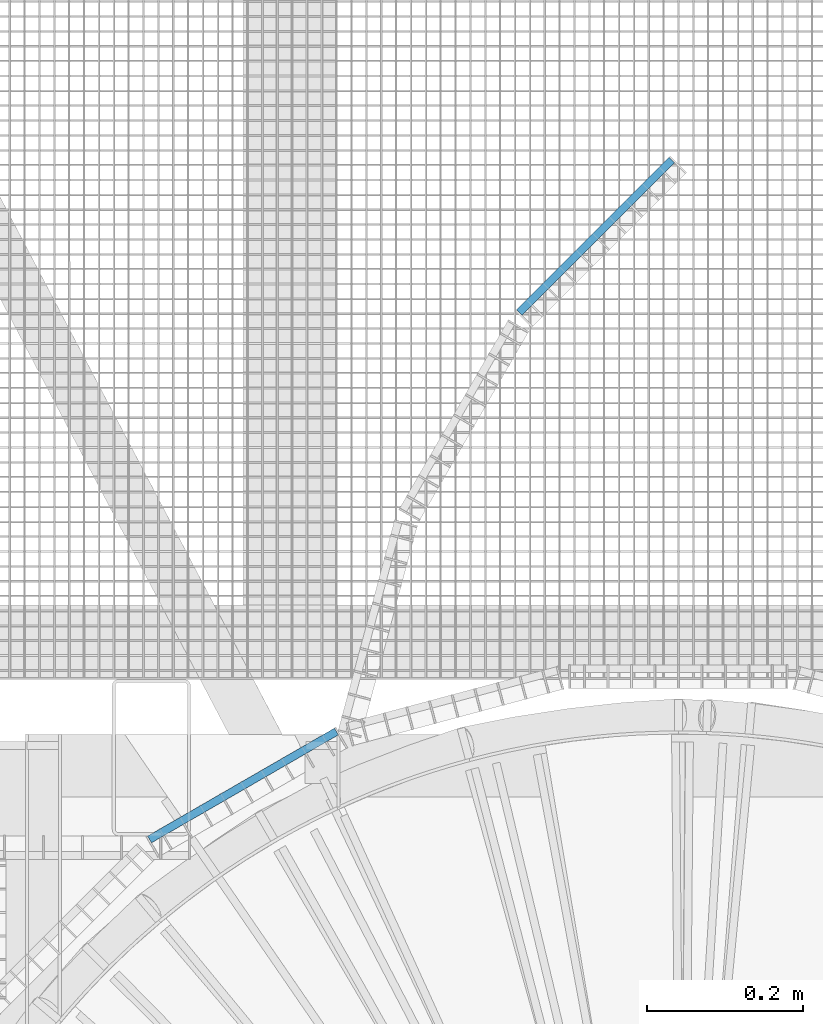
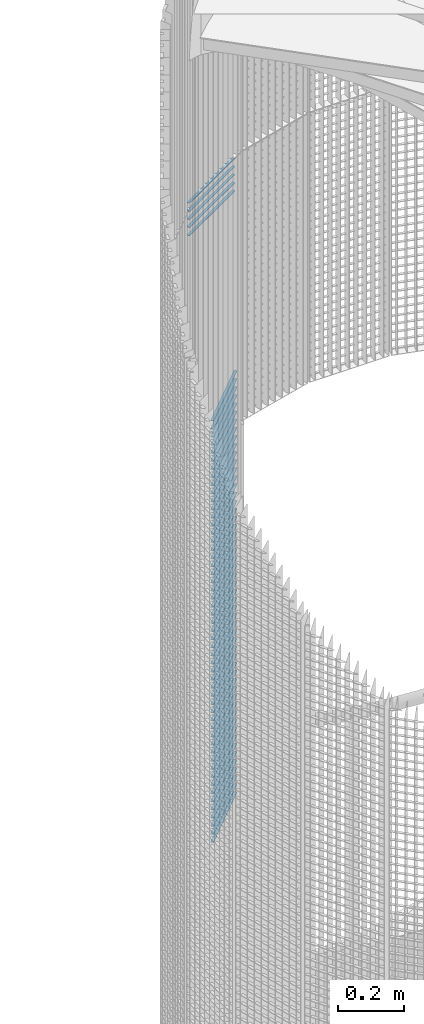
# One storey, part 324 of 1183: 58 beams, 2 elements without a shape of their own.
"""IFC2X3 building model written with IfcOpenShell, lengths in millimetres."""

from ifc_helpers import new_model, si_unit, frame, origin_with_axes, origin_2d_with_axis, place, context, subcontext, project, spatial, rectangle, extrude, material, type_object, element, aggregate, save


model = new_model("IFC2X3")

# Units and contexts
model_context = context("Model", 3, precision=1e-05, world=origin_with_axes())
body_context = subcontext(model_context, "Body", "Model", "MODEL_VIEW")
ifc_project = project(units=[si_unit("LENGTHUNIT", "METRE", prefix="MILLI"), si_unit("AREAUNIT", "SQUARE_METRE"), si_unit("VOLUMEUNIT", "CUBIC_METRE"), si_unit("MASSUNIT", "GRAM", prefix="KILO"), si_unit("TIMEUNIT", "SECOND"), si_unit("PLANEANGLEUNIT", "RADIAN"), si_unit("SOLIDANGLEUNIT", "STERADIAN"), si_unit("THERMODYNAMICTEMPERATUREUNIT", "DEGREE_CELSIUS"), si_unit("LUMINOUSINTENSITYUNIT", "LUMEN")], contexts=[model_context])

# Site, building, storey
site_placement = place(None, origin_with_axes())
site = spatial("IfcSite", under=ifc_project, at=site_placement, Name="Undefined", CompositionType="ELEMENT")
building_placement = place(site_placement, origin_with_axes())
building = spatial("IfcBuilding", under=site, at=building_placement, Name="Undefined", CompositionType="ELEMENT")
storey_placement = place(building_placement, origin_with_axes())
storey = spatial("IfcBuildingStorey", under=building, at=storey_placement, Name="Undefined", CompositionType="ELEMENT", Elevation=0.0)

# Assembly, beams
assembly_1_placement = place(storey_placement, origin_with_axes())
assembly_1 = element("IfcElementAssembly", 1, at=assembly_1_placement, inside=storey, Name="BORDURE", AssemblyPlace="NOTDEFINED", PredefinedType="NOTDEFINED")
ifc_material = material(Name="STEEL/S235JR")
beam_type = type_object("IfcBeamType", Name="PL2*10", PredefinedType="NOTDEFINED")
beam_1_placement = place(assembly_1_placement, frame((-8.49695219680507, 1764.20529939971, 1590.0), z_axis=(-0.707106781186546, 0.707106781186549, 0.0), x_axis=(-0.70710678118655, -0.707106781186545, 0.0)))
beam_1 = element("IfcBeam", 2, at=beam_1_placement, type_object=beam_type, material=ifc_material, Name="ENTRETOISE", context=body_context, shape_type="SweptSolid", body=[
    extrude(rectangle(XDim=2.0, YDim=10.0, at=origin_2d_with_axis()), frame((275.999999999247, 9.09494701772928e-13, 1.53210777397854e-14), z_axis=(-1.0, 0.0, 0.0), x_axis=(0.0, -1.0, 0.0)), (0.0, 0.0, 1.0), 276.0),
])
beam_2_placement = place(assembly_1_placement, frame((-8.49695219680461, 1764.20529939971, 1560.0), z_axis=(-0.707106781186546, 0.707106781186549, 0.0), x_axis=(-0.70710678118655, -0.707106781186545, 0.0)))
beam_2 = element("IfcBeam", 3, at=beam_2_placement, type_object=beam_type, material=ifc_material, Name="ENTRETOISE", context=body_context, shape_type="SweptSolid", body=[
    extrude(rectangle(XDim=2.0, YDim=10.0, at=origin_2d_with_axis()), frame((275.999999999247, 9.09494701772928e-13, 1.53210777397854e-14), z_axis=(-1.0, 0.0, 0.0), x_axis=(0.0, -1.0, 0.0)), (0.0, 0.0, 1.0), 276.0),
])
beam_3_placement = place(assembly_1_placement, frame((-8.49695219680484, 1764.20529939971, 1530.0), z_axis=(-0.707106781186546, 0.707106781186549, 0.0), x_axis=(-0.70710678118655, -0.707106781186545, 0.0)))
beam_3 = element("IfcBeam", 4, at=beam_3_placement, type_object=beam_type, material=ifc_material, Name="ENTRETOISE", context=body_context, shape_type="SweptSolid", body=[
    extrude(rectangle(XDim=2.0, YDim=10.0, at=origin_2d_with_axis()), frame((275.999999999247, 9.09494701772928e-13, 1.53210777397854e-14), z_axis=(-1.0, 0.0, 0.0), x_axis=(0.0, -1.0, 0.0)), (0.0, 0.0, 1.0), 276.0),
])
beam_4_placement = place(assembly_1_placement, frame((-8.49695219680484, 1764.20529939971, 1500.0), z_axis=(-0.707106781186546, 0.707106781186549, 0.0), x_axis=(-0.70710678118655, -0.707106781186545, 0.0)))
beam_4 = element("IfcBeam", 5, at=beam_4_placement, type_object=beam_type, material=ifc_material, Name="ENTRETOISE", context=body_context, shape_type="SweptSolid", body=[
    extrude(rectangle(XDim=2.0, YDim=10.0, at=origin_2d_with_axis()), frame((275.999999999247, 9.09494701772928e-13, 1.53210777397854e-14), z_axis=(-1.0, 0.0, 0.0), x_axis=(0.0, -1.0, 0.0)), (0.0, 0.0, 1.0), 276.0),
])
beam_5_placement = place(assembly_1_placement, frame((-8.49695219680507, 1764.20529939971, 1470.0), z_axis=(-0.707106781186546, 0.707106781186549, 0.0), x_axis=(-0.70710678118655, -0.707106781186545, 0.0)))
beam_5 = element("IfcBeam", 6, at=beam_5_placement, type_object=beam_type, material=ifc_material, Name="ENTRETOISE", context=body_context, shape_type="SweptSolid", body=[
    extrude(rectangle(XDim=2.0, YDim=10.0, at=origin_2d_with_axis()), frame((275.999999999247, 9.09494701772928e-13, 1.53210777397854e-14), z_axis=(-1.0, 0.0, 0.0), x_axis=(0.0, -1.0, 0.0)), (0.0, 0.0, 1.0), 276.0),
])
beam_6_placement = place(assembly_1_placement, frame((-8.49695219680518, 1764.20529939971, 1440.0), z_axis=(-0.707106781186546, 0.707106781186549, 0.0), x_axis=(-0.70710678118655, -0.707106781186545, 0.0)))
beam_6 = element("IfcBeam", 7, at=beam_6_placement, type_object=beam_type, material=ifc_material, Name="ENTRETOISE", context=body_context, shape_type="SweptSolid", body=[
    extrude(rectangle(XDim=2.0, YDim=10.0, at=origin_2d_with_axis()), frame((275.999999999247, 9.09494701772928e-13, 1.53210777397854e-14), z_axis=(-1.0, 0.0, 0.0), x_axis=(0.0, -1.0, 0.0)), (0.0, 0.0, 1.0), 276.0),
])
beam_7_placement = place(assembly_1_placement, frame((-8.4969521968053, 1764.20529939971, 1410.0), z_axis=(-0.707106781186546, 0.707106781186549, 0.0), x_axis=(-0.70710678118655, -0.707106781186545, 0.0)))
beam_7 = element("IfcBeam", 8, at=beam_7_placement, type_object=beam_type, material=ifc_material, Name="ENTRETOISE", context=body_context, shape_type="SweptSolid", body=[
    extrude(rectangle(XDim=2.0, YDim=10.0, at=origin_2d_with_axis()), frame((275.999999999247, 9.09494701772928e-13, 1.53210777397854e-14), z_axis=(-1.0, 0.0, 0.0), x_axis=(0.0, -1.0, 0.0)), (0.0, 0.0, 1.0), 276.0),
])
beam_8_placement = place(assembly_1_placement, frame((-8.49695219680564, 1764.20529939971, 1380.0), z_axis=(-0.707106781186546, 0.707106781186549, 0.0), x_axis=(-0.70710678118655, -0.707106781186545, 0.0)))
beam_8 = element("IfcBeam", 9, at=beam_8_placement, type_object=beam_type, material=ifc_material, Name="ENTRETOISE", context=body_context, shape_type="SweptSolid", body=[
    extrude(rectangle(XDim=2.0, YDim=10.0, at=origin_2d_with_axis()), frame((275.999999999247, 9.09494701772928e-13, 1.53210777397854e-14), z_axis=(-1.0, 0.0, 0.0), x_axis=(0.0, -1.0, 0.0)), (0.0, 0.0, 1.0), 276.0),
])
beam_9_placement = place(assembly_1_placement, frame((-8.49695219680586, 1764.20529939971, 1350.0), z_axis=(-0.707106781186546, 0.707106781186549, 0.0), x_axis=(-0.70710678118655, -0.707106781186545, 0.0)))
beam_9 = element("IfcBeam", 10, at=beam_9_placement, type_object=beam_type, material=ifc_material, Name="ENTRETOISE", context=body_context, shape_type="SweptSolid", body=[
    extrude(rectangle(XDim=2.0, YDim=10.0, at=origin_2d_with_axis()), frame((275.999999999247, 9.09494701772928e-13, 1.53210777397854e-14), z_axis=(-1.0, 0.0, 0.0), x_axis=(0.0, -1.0, 0.0)), (0.0, 0.0, 1.0), 276.0),
])
beam_10_placement = place(assembly_1_placement, frame((-8.49695219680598, 1764.20529939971, 1320.0), z_axis=(-0.707106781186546, 0.707106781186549, 0.0), x_axis=(-0.70710678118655, -0.707106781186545, 0.0)))
beam_10 = element("IfcBeam", 11, at=beam_10_placement, type_object=beam_type, material=ifc_material, Name="ENTRETOISE", context=body_context, shape_type="SweptSolid", body=[
    extrude(rectangle(XDim=2.0, YDim=10.0, at=origin_2d_with_axis()), frame((275.999999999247, 9.09494701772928e-13, 1.53210777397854e-14), z_axis=(-1.0, 0.0, 0.0), x_axis=(0.0, -1.0, 0.0)), (0.0, 0.0, 1.0), 276.0),
])
beam_11_placement = place(assembly_1_placement, frame((-8.49695219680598, 1764.20529939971, 1290.0), z_axis=(-0.707106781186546, 0.707106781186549, 0.0), x_axis=(-0.70710678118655, -0.707106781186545, 0.0)))
beam_11 = element("IfcBeam", 12, at=beam_11_placement, type_object=beam_type, material=ifc_material, Name="ENTRETOISE", context=body_context, shape_type="SweptSolid", body=[
    extrude(rectangle(XDim=2.0, YDim=10.0, at=origin_2d_with_axis()), frame((275.999999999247, 9.09494701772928e-13, 1.53210777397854e-14), z_axis=(-1.0, 0.0, 0.0), x_axis=(0.0, -1.0, 0.0)), (0.0, 0.0, 1.0), 276.0),
])
beam_12_placement = place(assembly_1_placement, frame((-8.49695219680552, 1764.20529939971, 1260.0), z_axis=(-0.707106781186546, 0.707106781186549, 0.0), x_axis=(-0.70710678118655, -0.707106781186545, 0.0)))
beam_12 = element("IfcBeam", 13, at=beam_12_placement, type_object=beam_type, material=ifc_material, Name="ENTRETOISE", context=body_context, shape_type="SweptSolid", body=[
    extrude(rectangle(XDim=2.0, YDim=10.0, at=origin_2d_with_axis()), frame((275.999999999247, 9.09494701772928e-13, 1.53210777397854e-14), z_axis=(-1.0, 0.0, 0.0), x_axis=(0.0, -1.0, 0.0)), (0.0, 0.0, 1.0), 276.0),
])
beam_13_placement = place(assembly_1_placement, frame((-8.49695219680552, 1764.20529939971, 1230.0), z_axis=(-0.707106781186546, 0.707106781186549, 0.0), x_axis=(-0.70710678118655, -0.707106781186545, 0.0)))
beam_13 = element("IfcBeam", 14, at=beam_13_placement, type_object=beam_type, material=ifc_material, Name="ENTRETOISE", context=body_context, shape_type="SweptSolid", body=[
    extrude(rectangle(XDim=2.0, YDim=10.0, at=origin_2d_with_axis()), frame((275.999999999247, 9.09494701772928e-13, 1.53210777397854e-14), z_axis=(-1.0, 0.0, 0.0), x_axis=(0.0, -1.0, 0.0)), (0.0, 0.0, 1.0), 276.0),
])
beam_14_placement = place(assembly_1_placement, frame((-8.49695219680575, 1764.20529939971, 1200.0), z_axis=(-0.707106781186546, 0.707106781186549, 0.0), x_axis=(-0.70710678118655, -0.707106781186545, 0.0)))
beam_14 = element("IfcBeam", 15, at=beam_14_placement, type_object=beam_type, material=ifc_material, Name="ENTRETOISE", context=body_context, shape_type="SweptSolid", body=[
    extrude(rectangle(XDim=2.0, YDim=10.0, at=origin_2d_with_axis()), frame((275.999999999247, 9.09494701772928e-13, 1.53210777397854e-14), z_axis=(-1.0, 0.0, 0.0), x_axis=(0.0, -1.0, 0.0)), (0.0, 0.0, 1.0), 276.0),
])
beam_15_placement = place(assembly_1_placement, frame((-8.49695219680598, 1764.20529939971, 1170.0), z_axis=(-0.707106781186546, 0.707106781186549, 0.0), x_axis=(-0.70710678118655, -0.707106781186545, 0.0)))
beam_15 = element("IfcBeam", 16, at=beam_15_placement, type_object=beam_type, material=ifc_material, Name="ENTRETOISE", context=body_context, shape_type="SweptSolid", body=[
    extrude(rectangle(XDim=2.0, YDim=10.0, at=origin_2d_with_axis()), frame((275.999999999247, 9.09494701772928e-13, 1.53210777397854e-14), z_axis=(-1.0, 0.0, 0.0), x_axis=(0.0, -1.0, 0.0)), (0.0, 0.0, 1.0), 276.0),
])
beam_16_placement = place(assembly_1_placement, frame((-8.49695219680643, 1764.20529939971, 1140.0), z_axis=(-0.707106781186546, 0.707106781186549, 0.0), x_axis=(-0.70710678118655, -0.707106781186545, 0.0)))
beam_16 = element("IfcBeam", 17, at=beam_16_placement, type_object=beam_type, material=ifc_material, Name="ENTRETOISE", context=body_context, shape_type="SweptSolid", body=[
    extrude(rectangle(XDim=2.0, YDim=10.0, at=origin_2d_with_axis()), frame((275.999999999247, 9.09494701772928e-13, 1.53210777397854e-14), z_axis=(-1.0, 0.0, 0.0), x_axis=(0.0, -1.0, 0.0)), (0.0, 0.0, 1.0), 276.0),
])
beam_17_placement = place(assembly_1_placement, frame((-8.49695219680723, 1764.20529939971, 719.999999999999), z_axis=(-0.707106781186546, 0.707106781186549, 0.0), x_axis=(-0.70710678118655, -0.707106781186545, 0.0)))
beam_17 = element("IfcBeam", 18, at=beam_17_placement, type_object=beam_type, material=ifc_material, Name="ENTRETOISE", context=body_context, shape_type="SweptSolid", body=[
    extrude(rectangle(XDim=2.0, YDim=10.0, at=origin_2d_with_axis()), frame((275.999999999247, 9.09494701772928e-13, 1.53210777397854e-14), z_axis=(-1.0, 0.0, 0.0), x_axis=(0.0, -1.0, 0.0)), (0.0, 0.0, 1.0), 276.0),
])
beam_18_placement = place(assembly_1_placement, frame((-8.49695219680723, 1764.20529939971, 689.999999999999), z_axis=(-0.707106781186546, 0.707106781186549, 0.0), x_axis=(-0.70710678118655, -0.707106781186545, 0.0)))
beam_18 = element("IfcBeam", 19, at=beam_18_placement, type_object=beam_type, material=ifc_material, Name="ENTRETOISE", context=body_context, shape_type="SweptSolid", body=[
    extrude(rectangle(XDim=2.0, YDim=10.0, at=origin_2d_with_axis()), frame((275.999999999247, 9.09494701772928e-13, 1.53210777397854e-14), z_axis=(-1.0, 0.0, 0.0), x_axis=(0.0, -1.0, 0.0)), (0.0, 0.0, 1.0), 276.0),
])
beam_19_placement = place(assembly_1_placement, frame((-8.49695219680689, 1764.20529939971, 749.999999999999), z_axis=(-0.707106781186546, 0.707106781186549, 0.0), x_axis=(-0.70710678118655, -0.707106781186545, 0.0)))
beam_19 = element("IfcBeam", 20, at=beam_19_placement, type_object=beam_type, material=ifc_material, Name="ENTRETOISE", context=body_context, shape_type="SweptSolid", body=[
    extrude(rectangle(XDim=2.0, YDim=10.0, at=origin_2d_with_axis()), frame((275.999999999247, 9.09494701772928e-13, 1.53210777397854e-14), z_axis=(-1.0, 0.0, 0.0), x_axis=(0.0, -1.0, 0.0)), (0.0, 0.0, 1.0), 276.0),
])
beam_20_placement = place(assembly_1_placement, frame((-8.49695219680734, 1764.20529939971, 659.999999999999), z_axis=(-0.707106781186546, 0.707106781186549, 0.0), x_axis=(-0.70710678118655, -0.707106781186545, 0.0)))
beam_20 = element("IfcBeam", 21, at=beam_20_placement, type_object=beam_type, material=ifc_material, Name="ENTRETOISE", context=body_context, shape_type="SweptSolid", body=[
    extrude(rectangle(XDim=2.0, YDim=10.0, at=origin_2d_with_axis()), frame((275.999999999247, 9.09494701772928e-13, 1.53210777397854e-14), z_axis=(-1.0, 0.0, 0.0), x_axis=(0.0, -1.0, 0.0)), (0.0, 0.0, 1.0), 276.0),
])
beam_21_placement = place(assembly_1_placement, frame((-8.49695219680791, 1764.20529939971, 629.999999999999), z_axis=(-0.707106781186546, 0.707106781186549, 0.0), x_axis=(-0.70710678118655, -0.707106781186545, 0.0)))
beam_21 = element("IfcBeam", 22, at=beam_21_placement, type_object=beam_type, material=ifc_material, Name="ENTRETOISE", context=body_context, shape_type="SweptSolid", body=[
    extrude(rectangle(XDim=2.0, YDim=10.0, at=origin_2d_with_axis()), frame((275.999999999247, 9.09494701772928e-13, 1.53210777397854e-14), z_axis=(-1.0, 0.0, 0.0), x_axis=(0.0, -1.0, 0.0)), (0.0, 0.0, 1.0), 276.0),
])
beam_22_placement = place(assembly_1_placement, frame((-8.49695219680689, 1764.20529939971, 779.999999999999), z_axis=(-0.707106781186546, 0.707106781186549, 0.0), x_axis=(-0.70710678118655, -0.707106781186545, 0.0)))
beam_22 = element("IfcBeam", 23, at=beam_22_placement, type_object=beam_type, material=ifc_material, Name="ENTRETOISE", context=body_context, shape_type="SweptSolid", body=[
    extrude(rectangle(XDim=2.0, YDim=10.0, at=origin_2d_with_axis()), frame((275.999999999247, 9.09494701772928e-13, 1.53210777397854e-14), z_axis=(-1.0, 0.0, 0.0), x_axis=(0.0, -1.0, 0.0)), (0.0, 0.0, 1.0), 276.0),
])
beam_23_placement = place(assembly_1_placement, frame((-8.49695219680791, 1764.20529939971, 599.999999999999), z_axis=(-0.707106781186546, 0.707106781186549, 0.0), x_axis=(-0.70710678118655, -0.707106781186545, 0.0)))
beam_23 = element("IfcBeam", 24, at=beam_23_placement, type_object=beam_type, material=ifc_material, Name="ENTRETOISE", context=body_context, shape_type="SweptSolid", body=[
    extrude(rectangle(XDim=2.0, YDim=10.0, at=origin_2d_with_axis()), frame((275.999999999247, 9.09494701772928e-13, 1.53210777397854e-14), z_axis=(-1.0, 0.0, 0.0), x_axis=(0.0, -1.0, 0.0)), (0.0, 0.0, 1.0), 276.0),
])
beam_24_placement = place(assembly_1_placement, frame((-8.49695219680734, 1764.20529939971, 809.999999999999), z_axis=(-0.707106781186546, 0.707106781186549, 0.0), x_axis=(-0.70710678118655, -0.707106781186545, 0.0)))
beam_24 = element("IfcBeam", 25, at=beam_24_placement, type_object=beam_type, material=ifc_material, Name="ENTRETOISE", context=body_context, shape_type="SweptSolid", body=[
    extrude(rectangle(XDim=2.0, YDim=10.0, at=origin_2d_with_axis()), frame((275.999999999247, 9.09494701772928e-13, 1.53210777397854e-14), z_axis=(-1.0, 0.0, 0.0), x_axis=(0.0, -1.0, 0.0)), (0.0, 0.0, 1.0), 276.0),
])
beam_25_placement = place(assembly_1_placement, frame((-8.49695219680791, 1764.20529939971, 569.999999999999), z_axis=(-0.707106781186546, 0.707106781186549, 0.0), x_axis=(-0.70710678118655, -0.707106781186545, 0.0)))
beam_25 = element("IfcBeam", 26, at=beam_25_placement, type_object=beam_type, material=ifc_material, Name="ENTRETOISE", context=body_context, shape_type="SweptSolid", body=[
    extrude(rectangle(XDim=2.0, YDim=10.0, at=origin_2d_with_axis()), frame((275.999999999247, 9.09494701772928e-13, 1.53210777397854e-14), z_axis=(-1.0, 0.0, 0.0), x_axis=(0.0, -1.0, 0.0)), (0.0, 0.0, 1.0), 276.0),
])
beam_26_placement = place(assembly_1_placement, frame((-8.49695219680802, 1764.20529939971, 539.999999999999), z_axis=(-0.707106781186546, 0.707106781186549, 0.0), x_axis=(-0.70710678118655, -0.707106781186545, 0.0)))
beam_26 = element("IfcBeam", 27, at=beam_26_placement, type_object=beam_type, material=ifc_material, Name="ENTRETOISE", context=body_context, shape_type="SweptSolid", body=[
    extrude(rectangle(XDim=2.0, YDim=10.0, at=origin_2d_with_axis()), frame((275.999999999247, 9.09494701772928e-13, 1.53210777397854e-14), z_axis=(-1.0, 0.0, 0.0), x_axis=(0.0, -1.0, 0.0)), (0.0, 0.0, 1.0), 276.0),
])
beam_27_placement = place(assembly_1_placement, frame((-8.49695219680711, 1764.20529939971, 839.999999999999), z_axis=(-0.707106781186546, 0.707106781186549, 0.0), x_axis=(-0.70710678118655, -0.707106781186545, 0.0)))
beam_27 = element("IfcBeam", 28, at=beam_27_placement, type_object=beam_type, material=ifc_material, Name="ENTRETOISE", context=body_context, shape_type="SweptSolid", body=[
    extrude(rectangle(XDim=2.0, YDim=10.0, at=origin_2d_with_axis()), frame((275.999999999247, 9.09494701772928e-13, 1.53210777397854e-14), z_axis=(-1.0, 0.0, 0.0), x_axis=(0.0, -1.0, 0.0)), (0.0, 0.0, 1.0), 276.0),
])
beam_28_placement = place(assembly_1_placement, frame((-8.49695219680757, 1764.20529939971, 509.999999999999), z_axis=(-0.707106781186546, 0.707106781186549, 0.0), x_axis=(-0.70710678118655, -0.707106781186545, 0.0)))
beam_28 = element("IfcBeam", 29, at=beam_28_placement, type_object=beam_type, material=ifc_material, Name="ENTRETOISE", context=body_context, shape_type="SweptSolid", body=[
    extrude(rectangle(XDim=2.0, YDim=10.0, at=origin_2d_with_axis()), frame((275.999999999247, 9.09494701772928e-13, 1.53210777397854e-14), z_axis=(-1.0, 0.0, 0.0), x_axis=(0.0, -1.0, 0.0)), (0.0, 0.0, 1.0), 276.0),
])
beam_29_placement = place(assembly_1_placement, frame((-8.49695219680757, 1764.20529939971, 479.999999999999), z_axis=(-0.707106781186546, 0.707106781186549, 0.0), x_axis=(-0.70710678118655, -0.707106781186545, 0.0)))
beam_29 = element("IfcBeam", 30, at=beam_29_placement, type_object=beam_type, material=ifc_material, Name="ENTRETOISE", context=body_context, shape_type="SweptSolid", body=[
    extrude(rectangle(XDim=2.0, YDim=10.0, at=origin_2d_with_axis()), frame((275.999999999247, 9.09494701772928e-13, 1.53210777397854e-14), z_axis=(-1.0, 0.0, 0.0), x_axis=(0.0, -1.0, 0.0)), (0.0, 0.0, 1.0), 276.0),
])
beam_30_placement = place(assembly_1_placement, frame((-8.49695219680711, 1764.20529939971, 869.999999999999), z_axis=(-0.707106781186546, 0.707106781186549, 0.0), x_axis=(-0.70710678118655, -0.707106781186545, 0.0)))
beam_30 = element("IfcBeam", 31, at=beam_30_placement, type_object=beam_type, material=ifc_material, Name="ENTRETOISE", context=body_context, shape_type="SweptSolid", body=[
    extrude(rectangle(XDim=2.0, YDim=10.0, at=origin_2d_with_axis()), frame((275.999999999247, 9.09494701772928e-13, 1.53210777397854e-14), z_axis=(-1.0, 0.0, 0.0), x_axis=(0.0, -1.0, 0.0)), (0.0, 0.0, 1.0), 276.0),
])
beam_31_placement = place(assembly_1_placement, frame((-8.49695219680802, 1764.20529939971, 449.999999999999), z_axis=(-0.707106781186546, 0.707106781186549, 0.0), x_axis=(-0.70710678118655, -0.707106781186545, 0.0)))
beam_31 = element("IfcBeam", 32, at=beam_31_placement, type_object=beam_type, material=ifc_material, Name="ENTRETOISE", context=body_context, shape_type="SweptSolid", body=[
    extrude(rectangle(XDim=2.0, YDim=10.0, at=origin_2d_with_axis()), frame((275.999999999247, 9.09494701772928e-13, 1.53210777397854e-14), z_axis=(-1.0, 0.0, 0.0), x_axis=(0.0, -1.0, 0.0)), (0.0, 0.0, 1.0), 276.0),
])
beam_32_placement = place(assembly_1_placement, frame((-8.49695219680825, 1764.20529939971, 419.999999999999), z_axis=(-0.707106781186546, 0.707106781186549, 0.0), x_axis=(-0.70710678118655, -0.707106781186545, 0.0)))
beam_32 = element("IfcBeam", 33, at=beam_32_placement, type_object=beam_type, material=ifc_material, Name="ENTRETOISE", context=body_context, shape_type="SweptSolid", body=[
    extrude(rectangle(XDim=2.0, YDim=10.0, at=origin_2d_with_axis()), frame((275.999999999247, 9.09494701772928e-13, 1.53210777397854e-14), z_axis=(-1.0, 0.0, 0.0), x_axis=(0.0, -1.0, 0.0)), (0.0, 0.0, 1.0), 276.0),
])
beam_33_placement = place(assembly_1_placement, frame((-8.496952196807, 1764.20529939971, 899.999999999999), z_axis=(-0.707106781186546, 0.707106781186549, 0.0), x_axis=(-0.70710678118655, -0.707106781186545, 0.0)))
beam_33 = element("IfcBeam", 34, at=beam_33_placement, type_object=beam_type, material=ifc_material, Name="ENTRETOISE", context=body_context, shape_type="SweptSolid", body=[
    extrude(rectangle(XDim=2.0, YDim=10.0, at=origin_2d_with_axis()), frame((275.999999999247, 9.09494701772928e-13, 1.53210777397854e-14), z_axis=(-1.0, 0.0, 0.0), x_axis=(0.0, -1.0, 0.0)), (0.0, 0.0, 1.0), 276.0),
])
beam_34_placement = place(assembly_1_placement, frame((-8.49695219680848, 1764.20529939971, 389.999999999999), z_axis=(-0.707106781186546, 0.707106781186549, 0.0), x_axis=(-0.70710678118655, -0.707106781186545, 0.0)))
beam_34 = element("IfcBeam", 35, at=beam_34_placement, type_object=beam_type, material=ifc_material, Name="ENTRETOISE", context=body_context, shape_type="SweptSolid", body=[
    extrude(rectangle(XDim=2.0, YDim=10.0, at=origin_2d_with_axis()), frame((275.999999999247, 9.09494701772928e-13, 1.53210777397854e-14), z_axis=(-1.0, 0.0, 0.0), x_axis=(0.0, -1.0, 0.0)), (0.0, 0.0, 1.0), 276.0),
])
beam_35_placement = place(assembly_1_placement, frame((-8.49695219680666, 1764.20529939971, 929.999999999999), z_axis=(-0.707106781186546, 0.707106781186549, 0.0), x_axis=(-0.70710678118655, -0.707106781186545, 0.0)))
beam_35 = element("IfcBeam", 36, at=beam_35_placement, type_object=beam_type, material=ifc_material, Name="ENTRETOISE", context=body_context, shape_type="SweptSolid", body=[
    extrude(rectangle(XDim=2.0, YDim=10.0, at=origin_2d_with_axis()), frame((275.999999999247, 9.09494701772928e-13, 1.53210777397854e-14), z_axis=(-1.0, 0.0, 0.0), x_axis=(0.0, -1.0, 0.0)), (0.0, 0.0, 1.0), 276.0),
])
beam_36_placement = place(assembly_1_placement, frame((-8.49695219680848, 1764.20529939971, 359.999999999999), z_axis=(-0.707106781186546, 0.707106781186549, 0.0), x_axis=(-0.70710678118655, -0.707106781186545, 0.0)))
beam_36 = element("IfcBeam", 37, at=beam_36_placement, type_object=beam_type, material=ifc_material, Name="ENTRETOISE", context=body_context, shape_type="SweptSolid", body=[
    extrude(rectangle(XDim=2.0, YDim=10.0, at=origin_2d_with_axis()), frame((275.999999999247, 9.09494701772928e-13, 1.53210777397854e-14), z_axis=(-1.0, 0.0, 0.0), x_axis=(0.0, -1.0, 0.0)), (0.0, 0.0, 1.0), 276.0),
])
beam_37_placement = place(assembly_1_placement, frame((-8.49695219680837, 1764.20529939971, 329.999999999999), z_axis=(-0.707106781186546, 0.707106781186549, 0.0), x_axis=(-0.70710678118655, -0.707106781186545, 0.0)))
beam_37 = element("IfcBeam", 38, at=beam_37_placement, type_object=beam_type, material=ifc_material, Name="ENTRETOISE", context=body_context, shape_type="SweptSolid", body=[
    extrude(rectangle(XDim=2.0, YDim=10.0, at=origin_2d_with_axis()), frame((275.999999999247, 9.09494701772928e-13, 1.53210777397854e-14), z_axis=(-1.0, 0.0, 0.0), x_axis=(0.0, -1.0, 0.0)), (0.0, 0.0, 1.0), 276.0),
])
beam_38_placement = place(assembly_1_placement, frame((-8.49695219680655, 1764.20529939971, 959.999999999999), z_axis=(-0.707106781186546, 0.707106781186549, 0.0), x_axis=(-0.70710678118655, -0.707106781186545, 0.0)))
beam_38 = element("IfcBeam", 39, at=beam_38_placement, type_object=beam_type, material=ifc_material, Name="ENTRETOISE", context=body_context, shape_type="SweptSolid", body=[
    extrude(rectangle(XDim=2.0, YDim=10.0, at=origin_2d_with_axis()), frame((275.999999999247, 9.09494701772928e-13, 1.53210777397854e-14), z_axis=(-1.0, 0.0, 0.0), x_axis=(0.0, -1.0, 0.0)), (0.0, 0.0, 1.0), 276.0),
])
beam_39_placement = place(assembly_1_placement, frame((-8.49695219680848, 1764.20529939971, 299.999999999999), z_axis=(-0.707106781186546, 0.707106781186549, 0.0), x_axis=(-0.70710678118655, -0.707106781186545, 0.0)))
beam_39 = element("IfcBeam", 40, at=beam_39_placement, type_object=beam_type, material=ifc_material, Name="ENTRETOISE", context=body_context, shape_type="SweptSolid", body=[
    extrude(rectangle(XDim=2.0, YDim=10.0, at=origin_2d_with_axis()), frame((275.999999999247, 9.09494701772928e-13, 1.53210777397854e-14), z_axis=(-1.0, 0.0, 0.0), x_axis=(0.0, -1.0, 0.0)), (0.0, 0.0, 1.0), 276.0),
])
beam_40_placement = place(assembly_1_placement, frame((-8.49695219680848, 1764.20529939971, 269.999999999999), z_axis=(-0.707106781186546, 0.707106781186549, 0.0), x_axis=(-0.70710678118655, -0.707106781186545, 0.0)))
beam_40 = element("IfcBeam", 41, at=beam_40_placement, type_object=beam_type, material=ifc_material, Name="ENTRETOISE", context=body_context, shape_type="SweptSolid", body=[
    extrude(rectangle(XDim=2.0, YDim=10.0, at=origin_2d_with_axis()), frame((275.999999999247, 9.09494701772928e-13, 1.53210777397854e-14), z_axis=(-1.0, 0.0, 0.0), x_axis=(0.0, -1.0, 0.0)), (0.0, 0.0, 1.0), 276.0),
])
beam_41_placement = place(assembly_1_placement, frame((-8.49695219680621, 1764.20529939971, 989.999999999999), z_axis=(-0.707106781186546, 0.707106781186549, 0.0), x_axis=(-0.70710678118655, -0.707106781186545, 0.0)))
beam_41 = element("IfcBeam", 42, at=beam_41_placement, type_object=beam_type, material=ifc_material, Name="ENTRETOISE", context=body_context, shape_type="SweptSolid", body=[
    extrude(rectangle(XDim=2.0, YDim=10.0, at=origin_2d_with_axis()), frame((275.999999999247, 9.09494701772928e-13, 1.53210777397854e-14), z_axis=(-1.0, 0.0, 0.0), x_axis=(0.0, -1.0, 0.0)), (0.0, 0.0, 1.0), 276.0),
])
beam_42_placement = place(assembly_1_placement, frame((-8.49695219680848, 1764.20529939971, 239.999999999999), z_axis=(-0.707106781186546, 0.707106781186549, 0.0), x_axis=(-0.70710678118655, -0.707106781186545, 0.0)))
beam_42 = element("IfcBeam", 43, at=beam_42_placement, type_object=beam_type, material=ifc_material, Name="ENTRETOISE", context=body_context, shape_type="SweptSolid", body=[
    extrude(rectangle(XDim=2.0, YDim=10.0, at=origin_2d_with_axis()), frame((275.999999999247, 9.09494701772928e-13, 1.53210777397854e-14), z_axis=(-1.0, 0.0, 0.0), x_axis=(0.0, -1.0, 0.0)), (0.0, 0.0, 1.0), 276.0),
])
beam_43_placement = place(assembly_1_placement, frame((-8.49695219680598, 1764.20529939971, 1020.0), z_axis=(-0.707106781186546, 0.707106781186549, 0.0), x_axis=(-0.70710678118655, -0.707106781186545, 0.0)))
beam_43 = element("IfcBeam", 44, at=beam_43_placement, type_object=beam_type, material=ifc_material, Name="ENTRETOISE", context=body_context, shape_type="SweptSolid", body=[
    extrude(rectangle(XDim=2.0, YDim=10.0, at=origin_2d_with_axis()), frame((275.999999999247, 9.09494701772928e-13, 1.53210777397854e-14), z_axis=(-1.0, 0.0, 0.0), x_axis=(0.0, -1.0, 0.0)), (0.0, 0.0, 1.0), 276.0),
])
beam_44_placement = place(assembly_1_placement, frame((-8.49695219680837, 1764.20529939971, 209.999999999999), z_axis=(-0.707106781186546, 0.707106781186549, 0.0), x_axis=(-0.70710678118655, -0.707106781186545, 0.0)))
beam_44 = element("IfcBeam", 45, at=beam_44_placement, type_object=beam_type, material=ifc_material, Name="ENTRETOISE", context=body_context, shape_type="SweptSolid", body=[
    extrude(rectangle(XDim=2.0, YDim=10.0, at=origin_2d_with_axis()), frame((275.999999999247, 9.09494701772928e-13, 1.53210777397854e-14), z_axis=(-1.0, 0.0, 0.0), x_axis=(0.0, -1.0, 0.0)), (0.0, 0.0, 1.0), 276.0),
])
beam_45_placement = place(assembly_1_placement, frame((-8.49695219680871, 1764.20529939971, 179.999999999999), z_axis=(-0.707106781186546, 0.707106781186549, 0.0), x_axis=(-0.70710678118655, -0.707106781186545, 0.0)))
beam_45 = element("IfcBeam", 46, at=beam_45_placement, type_object=beam_type, material=ifc_material, Name="ENTRETOISE", context=body_context, shape_type="SweptSolid", body=[
    extrude(rectangle(XDim=2.0, YDim=10.0, at=origin_2d_with_axis()), frame((275.999999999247, 9.09494701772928e-13, 1.53210777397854e-14), z_axis=(-1.0, 0.0, 0.0), x_axis=(0.0, -1.0, 0.0)), (0.0, 0.0, 1.0), 276.0),
])
beam_46_placement = place(assembly_1_placement, frame((-8.49695219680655, 1764.20529939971, 1050.0), z_axis=(-0.707106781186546, 0.707106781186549, 0.0), x_axis=(-0.70710678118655, -0.707106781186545, 0.0)))
beam_46 = element("IfcBeam", 47, at=beam_46_placement, type_object=beam_type, material=ifc_material, Name="ENTRETOISE", context=body_context, shape_type="SweptSolid", body=[
    extrude(rectangle(XDim=2.0, YDim=10.0, at=origin_2d_with_axis()), frame((275.999999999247, 9.09494701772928e-13, 1.53210777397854e-14), z_axis=(-1.0, 0.0, 0.0), x_axis=(0.0, -1.0, 0.0)), (0.0, 0.0, 1.0), 276.0),
])
beam_47_placement = place(assembly_1_placement, frame((-8.49695219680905, 1764.20529939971, 149.999999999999), z_axis=(-0.707106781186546, 0.707106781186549, 0.0), x_axis=(-0.70710678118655, -0.707106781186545, 0.0)))
beam_47 = element("IfcBeam", 48, at=beam_47_placement, type_object=beam_type, material=ifc_material, Name="ENTRETOISE", context=body_context, shape_type="SweptSolid", body=[
    extrude(rectangle(XDim=2.0, YDim=10.0, at=origin_2d_with_axis()), frame((275.999999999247, 9.09494701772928e-13, 1.53210777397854e-14), z_axis=(-1.0, 0.0, 0.0), x_axis=(0.0, -1.0, 0.0)), (0.0, 0.0, 1.0), 276.0),
])
beam_48_placement = place(assembly_1_placement, frame((-8.49695219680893, 1764.20529939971, 119.999999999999), z_axis=(-0.707106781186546, 0.707106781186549, 0.0), x_axis=(-0.70710678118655, -0.707106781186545, 0.0)))
beam_48 = element("IfcBeam", 49, at=beam_48_placement, type_object=beam_type, material=ifc_material, Name="ENTRETOISE", context=body_context, shape_type="SweptSolid", body=[
    extrude(rectangle(XDim=2.0, YDim=10.0, at=origin_2d_with_axis()), frame((275.999999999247, 9.09494701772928e-13, 1.53210777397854e-14), z_axis=(-1.0, 0.0, 0.0), x_axis=(0.0, -1.0, 0.0)), (0.0, 0.0, 1.0), 276.0),
])
beam_49_placement = place(assembly_1_placement, frame((-8.49695219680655, 1764.20529939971, 1080.0), z_axis=(-0.707106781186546, 0.707106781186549, 0.0), x_axis=(-0.70710678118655, -0.707106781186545, 0.0)))
beam_49 = element("IfcBeam", 50, at=beam_49_placement, type_object=beam_type, material=ifc_material, Name="ENTRETOISE", context=body_context, shape_type="SweptSolid", body=[
    extrude(rectangle(XDim=2.0, YDim=10.0, at=origin_2d_with_axis()), frame((275.999999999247, 9.09494701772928e-13, 1.53210777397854e-14), z_axis=(-1.0, 0.0, 0.0), x_axis=(0.0, -1.0, 0.0)), (0.0, 0.0, 1.0), 276.0),
])
beam_50_placement = place(assembly_1_placement, frame((-8.49695219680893, 1764.20529939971, 89.9999999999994), z_axis=(-0.707106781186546, 0.707106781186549, 0.0), x_axis=(-0.70710678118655, -0.707106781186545, 0.0)))
beam_50 = element("IfcBeam", 51, at=beam_50_placement, type_object=beam_type, material=ifc_material, Name="ENTRETOISE", context=body_context, shape_type="SweptSolid", body=[
    extrude(rectangle(XDim=2.0, YDim=10.0, at=origin_2d_with_axis()), frame((275.999999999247, 9.09494701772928e-13, 1.53210777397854e-14), z_axis=(-1.0, 0.0, 0.0), x_axis=(0.0, -1.0, 0.0)), (0.0, 0.0, 1.0), 276.0),
])
beam_51_placement = place(assembly_1_placement, frame((-8.49695219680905, 1764.2052993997, 59.9999999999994), z_axis=(-0.707106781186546, 0.707106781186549, 0.0), x_axis=(-0.70710678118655, -0.707106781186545, 0.0)))
beam_51 = element("IfcBeam", 52, at=beam_51_placement, type_object=beam_type, material=ifc_material, Name="ENTRETOISE", context=body_context, shape_type="SweptSolid", body=[
    extrude(rectangle(XDim=2.0, YDim=10.0, at=origin_2d_with_axis()), frame((275.999999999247, 9.09494701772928e-13, 1.53210777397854e-14), z_axis=(-1.0, 0.0, 0.0), x_axis=(0.0, -1.0, 0.0)), (0.0, 0.0, 1.0), 276.0),
])
beam_52_placement = place(assembly_1_placement, frame((-8.49695219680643, 1764.20529939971, 1110.0), z_axis=(-0.707106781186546, 0.707106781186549, 0.0), x_axis=(-0.70710678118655, -0.707106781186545, 0.0)))
beam_52 = element("IfcBeam", 53, at=beam_52_placement, type_object=beam_type, material=ifc_material, Name="ENTRETOISE", context=body_context, shape_type="SweptSolid", body=[
    extrude(rectangle(XDim=2.0, YDim=10.0, at=origin_2d_with_axis()), frame((275.999999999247, 9.09494701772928e-13, 1.53210777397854e-14), z_axis=(-1.0, 0.0, 0.0), x_axis=(0.0, -1.0, 0.0)), (0.0, 0.0, 1.0), 276.0),
])
beam_53_placement = place(assembly_1_placement, frame((-8.49695219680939, 1764.2052993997, 29.9999999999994), z_axis=(-0.707106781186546, 0.707106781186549, 0.0), x_axis=(-0.70710678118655, -0.707106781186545, 0.0)))
beam_53 = element("IfcBeam", 54, at=beam_53_placement, type_object=beam_type, material=ifc_material, Name="ENTRETOISE", context=body_context, shape_type="SweptSolid", body=[
    extrude(rectangle(XDim=2.0, YDim=10.0, at=origin_2d_with_axis()), frame((275.999999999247, 9.09494701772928e-13, 1.53210777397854e-14), z_axis=(-1.0, 0.0, 0.0), x_axis=(0.0, -1.0, 0.0)), (0.0, 0.0, 1.0), 276.0),
])
aggregate(assembly_1, [beam_1, beam_2, beam_3, beam_4, beam_5, beam_6, beam_7, beam_8, beam_9, beam_10, beam_11, beam_12, beam_13, beam_14, beam_15, beam_16, beam_17, beam_18, beam_19, beam_20, beam_21, beam_22, beam_23, beam_24, beam_25, beam_26, beam_27, beam_28, beam_29, beam_30, beam_31, beam_32, beam_33, beam_34, beam_35, beam_36, beam_37, beam_38, beam_39, beam_40, beam_41, beam_42, beam_43, beam_44, beam_45, beam_46, beam_47, beam_48, beam_49, beam_50, beam_51, beam_52, beam_53])

assembly_2_placement = place(storey_placement, origin_with_axes())
assembly_2 = element("IfcElementAssembly", 55, at=assembly_2_placement, inside=storey, Name="BORDURE", AssemblyPlace="NOTDEFINED", PredefinedType="NOTDEFINED")
beam_54_placement = place(assembly_2_placement, frame((-437.231955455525, 1033.29996828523, 2970.0), z_axis=(-0.49999999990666, 0.866025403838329, 0.0), x_axis=(-0.866025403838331, -0.499999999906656, 0.0)))
beam_54 = element("IfcBeam", 56, at=beam_54_placement, type_object=beam_type, material=ifc_material, Name="ENTRETOISE", context=body_context, shape_type="SweptSolid", body=[
    extrude(rectangle(XDim=2.0, YDim=10.0, at=origin_2d_with_axis()), frame((275.999999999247, 9.09494701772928e-13, 1.53210777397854e-14), z_axis=(-1.0, 0.0, 0.0), x_axis=(0.0, -1.0, 0.0)), (0.0, 0.0, 1.0), 276.0),
])
beam_55_placement = place(assembly_2_placement, frame((-437.231955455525, 1033.29996828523, 2940.0), z_axis=(-0.49999999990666, 0.866025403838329, 0.0), x_axis=(-0.866025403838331, -0.499999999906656, 0.0)))
beam_55 = element("IfcBeam", 57, at=beam_55_placement, type_object=beam_type, material=ifc_material, Name="ENTRETOISE", context=body_context, shape_type="SweptSolid", body=[
    extrude(rectangle(XDim=2.0, YDim=10.0, at=origin_2d_with_axis()), frame((275.999999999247, 9.09494701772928e-13, 1.53210777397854e-14), z_axis=(-1.0, 0.0, 0.0), x_axis=(0.0, -1.0, 0.0)), (0.0, 0.0, 1.0), 276.0),
])
beam_56_placement = place(assembly_2_placement, frame((-437.231955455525, 1033.29996828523, 2910.0), z_axis=(-0.49999999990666, 0.866025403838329, 0.0), x_axis=(-0.866025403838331, -0.499999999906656, 0.0)))
beam_56 = element("IfcBeam", 58, at=beam_56_placement, type_object=beam_type, material=ifc_material, Name="ENTRETOISE", context=body_context, shape_type="SweptSolid", body=[
    extrude(rectangle(XDim=2.0, YDim=10.0, at=origin_2d_with_axis()), frame((275.999999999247, 9.09494701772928e-13, 1.53210777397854e-14), z_axis=(-1.0, 0.0, 0.0), x_axis=(0.0, -1.0, 0.0)), (0.0, 0.0, 1.0), 276.0),
])
beam_57_placement = place(assembly_2_placement, frame((-437.231955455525, 1033.29996828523, 2880.0), z_axis=(-0.49999999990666, 0.866025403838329, 0.0), x_axis=(-0.866025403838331, -0.499999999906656, 0.0)))
beam_57 = element("IfcBeam", 59, at=beam_57_placement, type_object=beam_type, material=ifc_material, Name="ENTRETOISE", context=body_context, shape_type="SweptSolid", body=[
    extrude(rectangle(XDim=2.0, YDim=10.0, at=origin_2d_with_axis()), frame((275.999999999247, 9.09494701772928e-13, 1.53210777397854e-14), z_axis=(-1.0, 0.0, 0.0), x_axis=(0.0, -1.0, 0.0)), (0.0, 0.0, 1.0), 276.0),
])
beam_58_placement = place(assembly_2_placement, frame((-437.231955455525, 1033.29996828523, 2850.0), z_axis=(-0.49999999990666, 0.866025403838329, 0.0), x_axis=(-0.866025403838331, -0.499999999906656, 0.0)))
beam_58 = element("IfcBeam", 60, at=beam_58_placement, type_object=beam_type, material=ifc_material, Name="ENTRETOISE", context=body_context, shape_type="SweptSolid", body=[
    extrude(rectangle(XDim=2.0, YDim=10.0, at=origin_2d_with_axis()), frame((275.999999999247, 9.09494701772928e-13, 1.53210777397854e-14), z_axis=(-1.0, 0.0, 0.0), x_axis=(0.0, -1.0, 0.0)), (0.0, 0.0, 1.0), 276.0),
])
aggregate(assembly_2, [beam_54, beam_55, beam_56, beam_57, beam_58])

save(model, "model.ifc")
